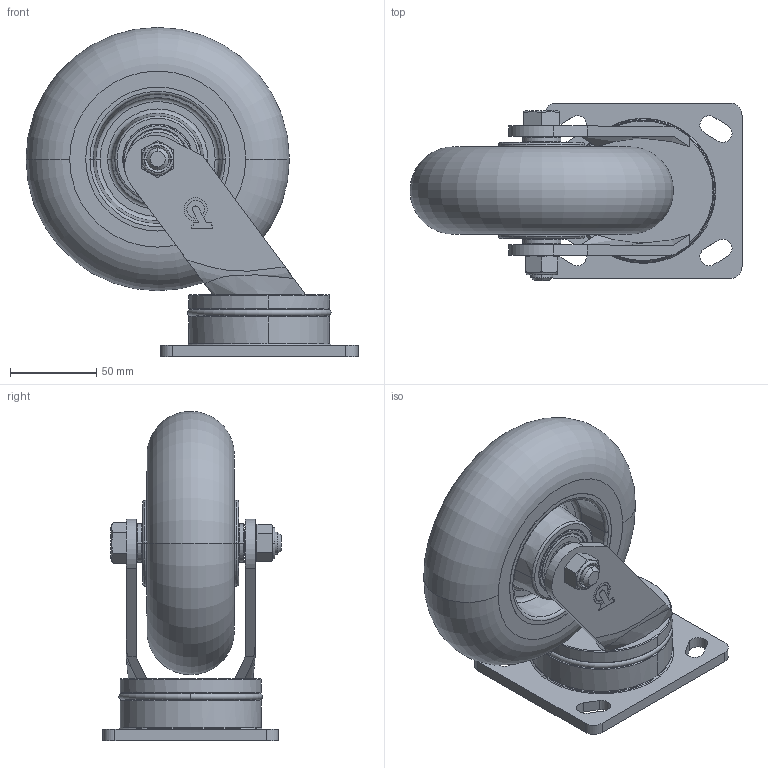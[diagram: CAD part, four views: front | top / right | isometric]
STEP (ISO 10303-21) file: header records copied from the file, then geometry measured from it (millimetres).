
FILE_DESCRIPTION((''),'2;1');
FILE_NAME('4KBC60JX6317YY_ASM','2024-07-12T',('durauser802'),(''),'CREO PARAMETRIC BY PTC INC, 2015200','CREO PARAMETRIC BY PTC INC, 2015200','');
FILE_SCHEMA(('AUTOMOTIVE_DESIGN { 1 0 10303 214 1 1 1 1 }'));
Length unit declared in the file: inch
Products named in the file (8): 4KZZ60JZ8317YY; AXLE; 1NUT; BC60JX63; 6203BEARING; TOPHAT_05_6203; BC60JX63_ASM; 4KBC60JX6317YY_ASM
Assembly tree (9 placements, depth 3):
  4KBC60JX6317YY_ASM
    4KZZ60JZ8317YY
    AXLE
    1NUT
    BC60JX63_ASM
      BC60JX63
      6203BEARING  x2
      TOPHAT_05_6203  x2
Bounding box: 192.09 x 103.12 x 190.5 mm (x, y, z)
Volume: 974794.4 mm3; surface area: 164289.3 mm2
Topology: 80 solids, 81 shells, 570 faces, 1198 edges, 716 vertices
Faces by surface type: plane 205, torus 154, cylinder 117, sphere 52, cone 36, bspline 6
Entity records: 14897 total; most frequent: CARTESIAN_POINT 2553, DIRECTION 2082, ORIENTED_EDGE 1636, AXIS2_PLACEMENT_3D 901, PRESENTATION_STYLE_ASSIGNMENT 888, STYLED_ITEM 881, CURVE_STYLE 818, EDGE_CURVE 818
